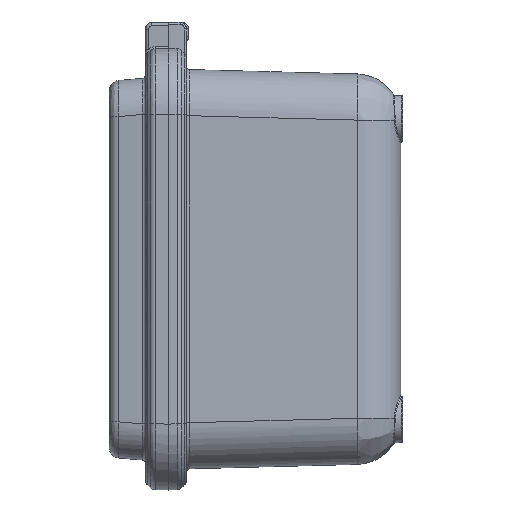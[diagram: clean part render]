
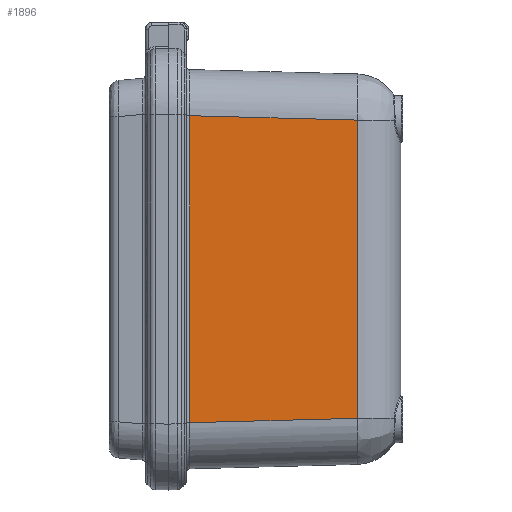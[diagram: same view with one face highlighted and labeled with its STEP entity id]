
A CAD part, left-side view. The second image highlights one B-rep face of the part: STEP entity #1896.
In plain terms, the highlighted planar face has unit normal (-1, -0.026, 0).
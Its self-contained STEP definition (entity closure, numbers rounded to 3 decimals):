
#1896=ADVANCED_FACE('',(#19994),#19996,.T.);
#19994=FACE_BOUND('',#19995,.T.);
#19995=EDGE_LOOP('',(#57422,#57423,#57424,#57425));
#19996=PLANE('',#19997);
#19997=AXIS2_PLACEMENT_3D('',#19998,#19999,#20000);
#19998=CARTESIAN_POINT('',(-410.5,-30.,303.));
#19999=DIRECTION('',(-1.,-0.026,0.));
#20000=DIRECTION('',(0.,0.,-1.));
#57422=ORIENTED_EDGE('',*,*,#66750,.T.);
#57423=ORIENTED_EDGE('',*,*,#66756,.T.);
#57424=ORIENTED_EDGE('',*,*,#66870,.F.);
#57425=ORIENTED_EDGE('',*,*,#66751,.F.);
#66750=EDGE_CURVE('',#71344,#71368,#71953,.T.);
#66751=EDGE_CURVE('',#71344,#71954,#71955,.T.);
#66756=EDGE_CURVE('',#71368,#71961,#71963,.T.);
#66870=EDGE_CURVE('',#71954,#71961,#72135,.T.);
#71344=VERTEX_POINT('',#79627);
#71368=VERTEX_POINT('',#80160);
#71953=LINE('',#84219,#84220);
#71954=VERTEX_POINT('',#84222);
#71955=LINE('',#84223,#84224);
#71961=VERTEX_POINT('',#84308);
#71963=LINE('',#84383,#84384);
#72135=LINE('',#86343,#86344);
#79627=CARTESIAN_POINT('',(-410.372,-34.869,232.896));
#80160=CARTESIAN_POINT('',(-410.372,-34.869,-232.896));
#84219=CARTESIAN_POINT('',(-410.372,-34.869,232.896));
#84220=VECTOR('',#84221,1.);
#84221=DIRECTION('',(0.,0.,-1.));
#84222=CARTESIAN_POINT('',(-403.711,-289.267,226.235));
#84223=CARTESIAN_POINT('',(-410.372,-34.869,232.896));
#84224=VECTOR('',#84225,1.);
#84225=DIRECTION('',(0.026,-0.999,-0.026));
#84308=CARTESIAN_POINT('',(-403.711,-289.267,-226.235));
#84383=CARTESIAN_POINT('',(-410.372,-34.869,-232.896));
#84384=VECTOR('',#84385,1.);
#84385=DIRECTION('',(0.026,-0.999,0.026));
#86343=CARTESIAN_POINT('',(-403.711,-289.267,226.235));
#86344=VECTOR('',#86345,1.);
#86345=DIRECTION('',(0.,0.,-1.));
